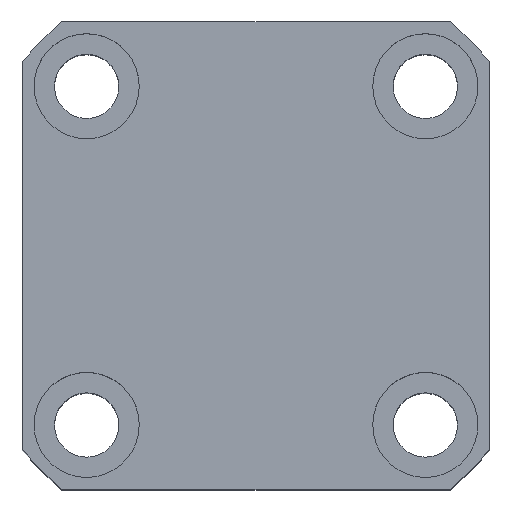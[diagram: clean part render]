
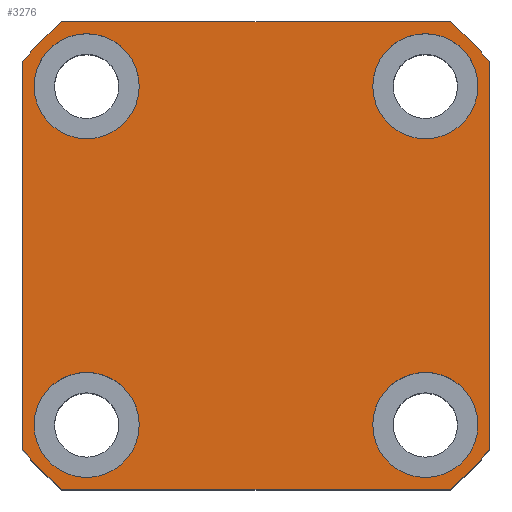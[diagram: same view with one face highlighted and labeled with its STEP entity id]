
A CAD part, top view. The second image highlights one B-rep face of the part: STEP entity #3276.
In plain terms, the highlighted planar face has unit normal (0, 0, 1).
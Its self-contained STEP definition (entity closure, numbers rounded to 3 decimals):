
#57 = VERTEX_POINT ( 'NONE', #9490 ) ;
#68 = CARTESIAN_POINT ( 'NONE',  ( 0., 0., 42.5 ) ) ;
#121 = VERTEX_POINT ( 'NONE', #10536 ) ;
#272 = ORIENTED_EDGE ( 'NONE', *, *, #12323, .T. ) ;
#515 = AXIS2_PLACEMENT_3D ( 'NONE', #10750, #3928, #12958 ) ;
#762 = CARTESIAN_POINT ( 'NONE',  ( 0., 0., 42.5 ) ) ;
#1137 = DIRECTION ( 'NONE',  ( 0., 0., 1. ) ) ;
#1316 = CIRCLE ( 'NONE', #6499, 52. ) ;
#1320 = CARTESIAN_POINT ( 'NONE',  ( 38., -29., 42.5 ) ) ;
#1334 = ORIENTED_EDGE ( 'NONE', *, *, #7046, .T. ) ;
#1445 = CARTESIAN_POINT ( 'NONE',  ( 33.226, -40., 42.5 ) ) ;
#1460 = DIRECTION ( 'NONE',  ( -1., 0., 0. ) ) ;
#1515 = CARTESIAN_POINT ( 'NONE',  ( -33.226, -40., 42.5 ) ) ;
#1555 = AXIS2_PLACEMENT_3D ( 'NONE', #4651, #13820, #11576 ) ;
#1644 = DIRECTION ( 'NONE',  ( 0., -1., 0. ) ) ;
#1677 = CARTESIAN_POINT ( 'NONE',  ( -40., -33.226, 42.5 ) ) ;
#2146 = DIRECTION ( 'NONE',  ( 1., 0., 0. ) ) ;
#2158 = EDGE_CURVE ( 'NONE', #8102, #6789, #8634, .T. ) ;
#2225 = FACE_OUTER_BOUND ( 'NONE', #5618, .T. ) ;
#2356 = DIRECTION ( 'NONE',  ( 0., 0., 1. ) ) ;
#2420 = DIRECTION ( 'NONE',  ( 0., 0., 1. ) ) ;
#2460 = CARTESIAN_POINT ( 'NONE',  ( 0., 0., 42.5 ) ) ;
#2562 = VECTOR ( 'NONE', #1460, 1000. ) ;
#2868 = ORIENTED_EDGE ( 'NONE', *, *, #10527, .T. ) ;
#3056 = DIRECTION ( 'NONE',  ( 1., 0., 0. ) ) ;
#3097 = CIRCLE ( 'NONE', #515, 9. ) ;
#3104 = VECTOR ( 'NONE', #1644, 1000. ) ;
#3115 = FACE_BOUND ( 'NONE', #11899, .T. ) ;
#3139 = CARTESIAN_POINT ( 'NONE',  ( 38., 29., 42.5 ) ) ;
#3238 = CARTESIAN_POINT ( 'NONE',  ( -29., -29., 42.5 ) ) ;
#3276 = ADVANCED_FACE ( 'NONE', ( #6495, #3115, #4551, #4724, #2225 ), #3701, .T. ) ;
#3429 = ORIENTED_EDGE ( 'NONE', *, *, #4852, .T. ) ;
#3509 = DIRECTION ( 'NONE',  ( 0., 0., 1. ) ) ;
#3594 = DIRECTION ( 'NONE',  ( 1., 0., 0. ) ) ;
#3701 = PLANE ( 'NONE',  #7388 ) ;
#3706 = VERTEX_POINT ( 'NONE', #1677 ) ;
#3728 = EDGE_CURVE ( 'NONE', #6789, #8102, #3097, .T. ) ;
#3746 = CARTESIAN_POINT ( 'NONE',  ( -38., -29., 42.5 ) ) ;
#3897 = VERTEX_POINT ( 'NONE', #3139 ) ;
#3928 = DIRECTION ( 'NONE',  ( 0., 0., 1. ) ) ;
#3934 = ORIENTED_EDGE ( 'NONE', *, *, #10132, .F. ) ;
#4540 = DIRECTION ( 'NONE',  ( 1., 0., 0. ) ) ;
#4551 = FACE_BOUND ( 'NONE', #7050, .T. ) ;
#4651 = CARTESIAN_POINT ( 'NONE',  ( 29., 29., 42.5 ) ) ;
#4656 = DIRECTION ( 'NONE',  ( 0., 0., 1. ) ) ;
#4724 = FACE_BOUND ( 'NONE', #9656, .T. ) ;
#4852 = EDGE_CURVE ( 'NONE', #10584, #57, #8984, .T. ) ;
#4951 = EDGE_CURVE ( 'NONE', #5034, #5452, #11130, .T. ) ;
#4996 = CARTESIAN_POINT ( 'NONE',  ( -40., 33.226, 42.5 ) ) ;
#5020 = ORIENTED_EDGE ( 'NONE', *, *, #4951, .F. ) ;
#5034 = VERTEX_POINT ( 'NONE', #13720 ) ;
#5205 = DIRECTION ( 'NONE',  ( 1., 0., 0. ) ) ;
#5221 = VECTOR ( 'NONE', #9350, 1000. ) ;
#5365 = ORIENTED_EDGE ( 'NONE', *, *, #5834, .T. ) ;
#5452 = VERTEX_POINT ( 'NONE', #3746 ) ;
#5460 = VERTEX_POINT ( 'NONE', #10572 ) ;
#5472 = VERTEX_POINT ( 'NONE', #1445 ) ;
#5618 = EDGE_LOOP ( 'NONE', ( #2868, #13756, #12393, #11612, #5365, #3429, #272, #1334 ) ) ;
#5765 = AXIS2_PLACEMENT_3D ( 'NONE', #10033, #13375, #14510 ) ;
#5834 = EDGE_CURVE ( 'NONE', #5472, #10584, #12179, .T. ) ;
#5900 = DIRECTION ( 'NONE',  ( 1., 0., 0. ) ) ;
#6019 = CIRCLE ( 'NONE', #11679, 9. ) ;
#6245 = CARTESIAN_POINT ( 'NONE',  ( -29., 29., 42.5 ) ) ;
#6295 = EDGE_CURVE ( 'NONE', #8672, #3897, #7903, .T. ) ;
#6495 = FACE_BOUND ( 'NONE', #11269, .T. ) ;
#6499 = AXIS2_PLACEMENT_3D ( 'NONE', #2460, #2356, #13921 ) ;
#6534 = CIRCLE ( 'NONE', #9066, 9. ) ;
#6672 = AXIS2_PLACEMENT_3D ( 'NONE', #68, #4656, #11422 ) ;
#6702 = CIRCLE ( 'NONE', #6672, 52. ) ;
#6726 = CARTESIAN_POINT ( 'NONE',  ( 0., 0., 42.5 ) ) ;
#6789 = VERTEX_POINT ( 'NONE', #1320 ) ;
#6809 = CARTESIAN_POINT ( 'NONE',  ( 20., -29., 42.5 ) ) ;
#6819 = DIRECTION ( 'NONE',  ( 0., 0., 1. ) ) ;
#7046 = EDGE_CURVE ( 'NONE', #13088, #7551, #8608, .T. ) ;
#7050 = EDGE_LOOP ( 'NONE', ( #13801, #12094 ) ) ;
#7388 = AXIS2_PLACEMENT_3D ( 'NONE', #762, #7527, #8735 ) ;
#7527 = DIRECTION ( 'NONE',  ( 0., 0., 1. ) ) ;
#7551 = VERTEX_POINT ( 'NONE', #10763 ) ;
#7903 = CIRCLE ( 'NONE', #1555, 9. ) ;
#8102 = VERTEX_POINT ( 'NONE', #6809 ) ;
#8449 = DIRECTION ( 'NONE',  ( 1., 0., 0. ) ) ;
#8480 = VERTEX_POINT ( 'NONE', #8747 ) ;
#8608 = LINE ( 'NONE', #10726, #2562 ) ;
#8634 = CIRCLE ( 'NONE', #11309, 9. ) ;
#8672 = VERTEX_POINT ( 'NONE', #11246 ) ;
#8735 = DIRECTION ( 'NONE',  ( 1., 0., 0. ) ) ;
#8747 = CARTESIAN_POINT ( 'NONE',  ( -20., 29., 42.5 ) ) ;
#8803 = ORIENTED_EDGE ( 'NONE', *, *, #14607, .F. ) ;
#8984 = LINE ( 'NONE', #13897, #5221 ) ;
#9066 = AXIS2_PLACEMENT_3D ( 'NONE', #6245, #14236, #5205 ) ;
#9173 = AXIS2_PLACEMENT_3D ( 'NONE', #10047, #12240, #3056 ) ;
#9292 = CARTESIAN_POINT ( 'NONE',  ( 29., 29., 42.5 ) ) ;
#9302 = AXIS2_PLACEMENT_3D ( 'NONE', #3238, #6819, #2146 ) ;
#9337 = CARTESIAN_POINT ( 'NONE',  ( 29., -29., 42.5 ) ) ;
#9350 = DIRECTION ( 'NONE',  ( 0., 1., 0. ) ) ;
#9355 = ORIENTED_EDGE ( 'NONE', *, *, #3728, .F. ) ;
#9478 = EDGE_CURVE ( 'NONE', #12130, #5472, #10796, .T. ) ;
#9490 = CARTESIAN_POINT ( 'NONE',  ( 40., 33.226, 42.5 ) ) ;
#9634 = EDGE_CURVE ( 'NONE', #5460, #8480, #6534, .T. ) ;
#9656 = EDGE_LOOP ( 'NONE', ( #3934, #13891 ) ) ;
#9732 = AXIS2_PLACEMENT_3D ( 'NONE', #9292, #3509, #10443 ) ;
#9938 = CIRCLE ( 'NONE', #9732, 9. ) ;
#10033 = CARTESIAN_POINT ( 'NONE',  ( 0., 0., 42.5 ) ) ;
#10047 = CARTESIAN_POINT ( 'NONE',  ( -29., 29., 42.5 ) ) ;
#10132 = EDGE_CURVE ( 'NONE', #3897, #8672, #9938, .T. ) ;
#10407 = EDGE_CURVE ( 'NONE', #8480, #5460, #11167, .T. ) ;
#10443 = DIRECTION ( 'NONE',  ( 1., 0., 0. ) ) ;
#10477 = DIRECTION ( 'NONE',  ( 0., 0., 1. ) ) ;
#10527 = EDGE_CURVE ( 'NONE', #7551, #121, #6702, .T. ) ;
#10536 = CARTESIAN_POINT ( 'NONE',  ( -40., 33.226, 42.5 ) ) ;
#10572 = CARTESIAN_POINT ( 'NONE',  ( -38., 29., 42.5 ) ) ;
#10584 = VERTEX_POINT ( 'NONE', #13577 ) ;
#10726 = CARTESIAN_POINT ( 'NONE',  ( -33.226, 40., 42.5 ) ) ;
#10750 = CARTESIAN_POINT ( 'NONE',  ( 29., -29., 42.5 ) ) ;
#10763 = CARTESIAN_POINT ( 'NONE',  ( -33.226, 40., 42.5 ) ) ;
#10792 = ORIENTED_EDGE ( 'NONE', *, *, #2158, .F. ) ;
#10796 = LINE ( 'NONE', #1515, #12950 ) ;
#11130 = CIRCLE ( 'NONE', #9302, 9. ) ;
#11167 = CIRCLE ( 'NONE', #9173, 9. ) ;
#11246 = CARTESIAN_POINT ( 'NONE',  ( 20., 29., 42.5 ) ) ;
#11269 = EDGE_LOOP ( 'NONE', ( #9355, #10792 ) ) ;
#11309 = AXIS2_PLACEMENT_3D ( 'NONE', #9337, #2420, #5900 ) ;
#11422 = DIRECTION ( 'NONE',  ( 1., 0., 0. ) ) ;
#11440 = EDGE_CURVE ( 'NONE', #3706, #12130, #13289, .T. ) ;
#11576 = DIRECTION ( 'NONE',  ( 1., 0., 0. ) ) ;
#11612 = ORIENTED_EDGE ( 'NONE', *, *, #9478, .T. ) ;
#11679 = AXIS2_PLACEMENT_3D ( 'NONE', #12679, #10477, #3594 ) ;
#11899 = EDGE_LOOP ( 'NONE', ( #5020, #8803 ) ) ;
#12094 = ORIENTED_EDGE ( 'NONE', *, *, #9634, .F. ) ;
#12130 = VERTEX_POINT ( 'NONE', #13478 ) ;
#12179 = CIRCLE ( 'NONE', #5765, 52. ) ;
#12240 = DIRECTION ( 'NONE',  ( 0., 0., 1. ) ) ;
#12289 = CARTESIAN_POINT ( 'NONE',  ( 33.226, 40., 42.5 ) ) ;
#12323 = EDGE_CURVE ( 'NONE', #57, #13088, #1316, .T. ) ;
#12393 = ORIENTED_EDGE ( 'NONE', *, *, #11440, .T. ) ;
#12679 = CARTESIAN_POINT ( 'NONE',  ( -29., -29., 42.5 ) ) ;
#12895 = AXIS2_PLACEMENT_3D ( 'NONE', #6726, #1137, #4540 ) ;
#12950 = VECTOR ( 'NONE', #8449, 1000. ) ;
#12958 = DIRECTION ( 'NONE',  ( 1., 0., 0. ) ) ;
#12992 = EDGE_CURVE ( 'NONE', #121, #3706, #14517, .T. ) ;
#13088 = VERTEX_POINT ( 'NONE', #12289 ) ;
#13289 = CIRCLE ( 'NONE', #12895, 52. ) ;
#13375 = DIRECTION ( 'NONE',  ( 0., 0., 1. ) ) ;
#13478 = CARTESIAN_POINT ( 'NONE',  ( -33.226, -40., 42.5 ) ) ;
#13577 = CARTESIAN_POINT ( 'NONE',  ( 40., -33.226, 42.5 ) ) ;
#13720 = CARTESIAN_POINT ( 'NONE',  ( -20., -29., 42.5 ) ) ;
#13756 = ORIENTED_EDGE ( 'NONE', *, *, #12992, .T. ) ;
#13801 = ORIENTED_EDGE ( 'NONE', *, *, #10407, .F. ) ;
#13820 = DIRECTION ( 'NONE',  ( 0., 0., 1. ) ) ;
#13891 = ORIENTED_EDGE ( 'NONE', *, *, #6295, .F. ) ;
#13897 = CARTESIAN_POINT ( 'NONE',  ( 40., 33.226, 42.5 ) ) ;
#13921 = DIRECTION ( 'NONE',  ( 1., 0., 0. ) ) ;
#14236 = DIRECTION ( 'NONE',  ( 0., 0., 1. ) ) ;
#14510 = DIRECTION ( 'NONE',  ( 1., 0., 0. ) ) ;
#14517 = LINE ( 'NONE', #4996, #3104 ) ;
#14607 = EDGE_CURVE ( 'NONE', #5452, #5034, #6019, .T. ) ;
